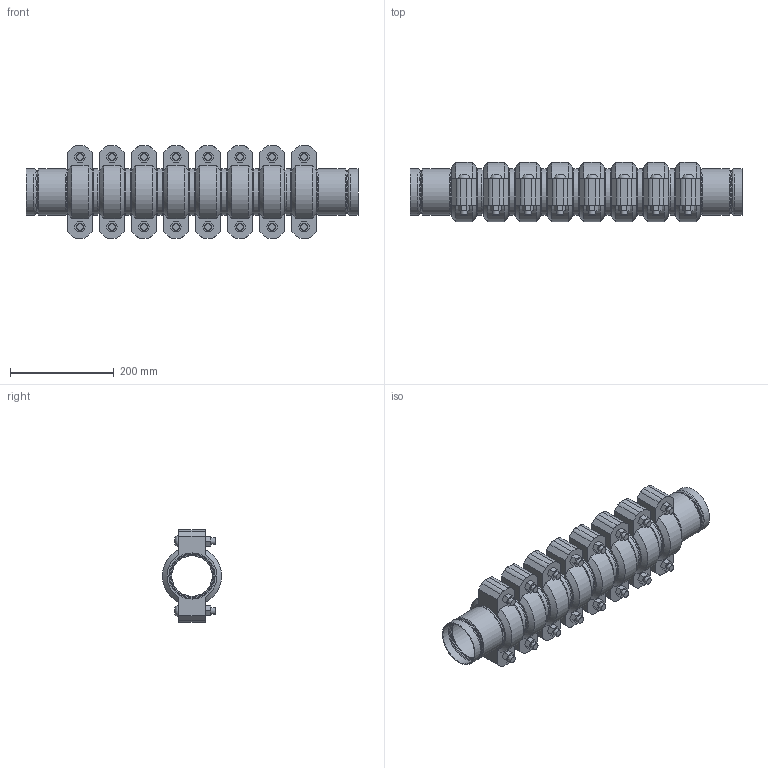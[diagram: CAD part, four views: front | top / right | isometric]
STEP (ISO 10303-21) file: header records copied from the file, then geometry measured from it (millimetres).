
FILE_DESCRIPTION(/* description */ ('VIC STRENGTHIN 100 EXPANSION JOINT 8 COUPLINGS EXPANDED STYLE E155 (ST1)','CAx-IF Rec.Pracs.---Representation and Presentation of Product Manufacturing Information (PMI)---4.0---2014-10-13'),/* implementation_level */ '2;1');
FILE_NAME(/* name */ 'C:\Users\Vjadhav\AppData\Roaming\Autodesk\ApplicationPlugins\Victaulic.Temp\A374\Victaulic_SS-StrengThin 100_Expansion Joint_Expanded_8 Couplings_Style E155 (ST1)_3 (80).stp',/* time_stamp */ '2021-07-23T19:34:28+05:00',/* author */ ('kkamble'),/* organization */ ('Victaulic'),/* preprocessor_version */ 'ST-DEVELOPER v17.2',/* originating_system */ 'Autodesk Inventor 2019',/* authorisation */ '');
FILE_SCHEMA (('AP242_MANAGED_MODEL_BASED_3D_ENGINEERING_MIM_LF { 1 0 10303 442 1 1 4 }'));
Length unit declared in the file: inch
Products named in the file (4): E155-03.0; E494G-03.0; Nipple-03.0; 075-03.0
Assembly tree (17 placements, depth 2):
  E155-03.0
    E494G-03.0  x2
    Nipple-03.0  x7
    075-03.0  x8
Bounding box: 639.83 x 113.88 x 177.8 mm (x, y, z)
Volume: 3266034.8 mm3; surface area: 849554.7 mm2
Topology: 17 solids, 33 shells, 608 faces, 1496 edges, 1054 vertices
Faces by surface type: plane 342, cylinder 182, cone 36, torus 32, bspline 16
Full cylindrical faces by diameter (mm): 12.7 x32, 14.605 x16, 77.927 x7, 79.985 x2, 81.737 x2, 82.55 x8, 83.185 x2, 84.938 x16, 85.7 x6, 88.9 x43
Entity records: 3798 total; most frequent: DIRECTION 677, CARTESIAN_POINT 663, ORIENTED_EDGE 548, AXIS2_PLACEMENT_3D 289, EDGE_CURVE 274, VERTEX_POINT 197, CIRCLE 167, EDGE_LOOP 129
